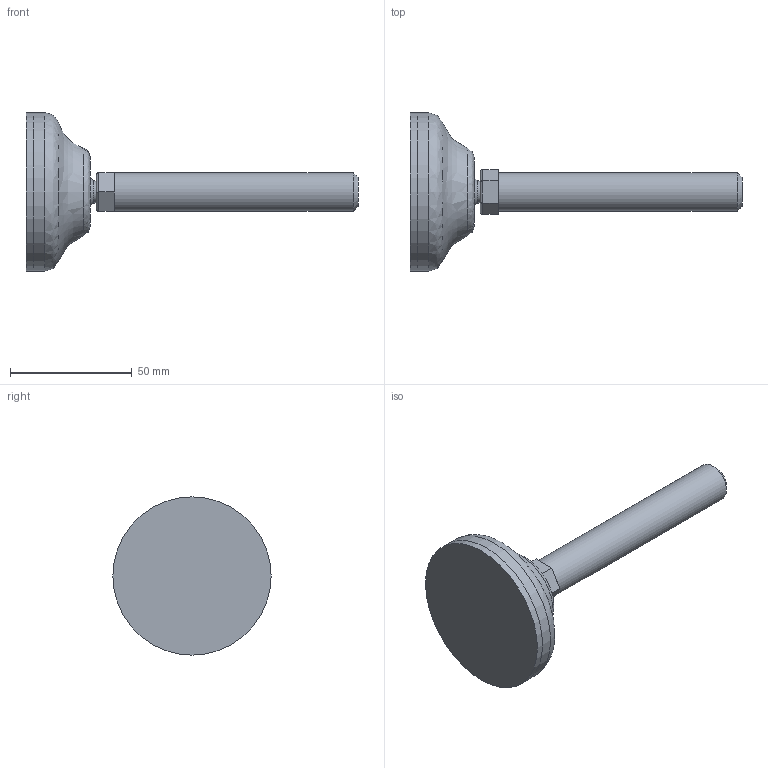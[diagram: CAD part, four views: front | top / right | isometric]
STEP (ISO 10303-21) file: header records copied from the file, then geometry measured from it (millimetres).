
FILE_DESCRIPTION(('STEP AP203'),'2;1');
FILE_NAME('10285.stp','2013-10-22T09:50:35',(''),(''),'2008.1.107','THINKDESIGN','');
FILE_SCHEMA(('CONFIG_CONTROL_DESIGN'));
Length unit declared in the file: millimetre
Bounding box: 136.32 x 65 x 65 mm (x, y, z)
Volume: 82494.6 mm3; surface area: 22729 mm2
Topology: 5 solids, 5 shells, 31 faces, 65 edges, 44 vertices
Faces by surface type: plane 16, cylinder 10, bspline 5
Full cylindrical faces by diameter (mm): 9.087 x1, 16 x1, 65 x2
Entity records: 1170 total; most frequent: CARTESIAN_POINT 411, DIRECTION 141, ORIENTED_EDGE 130, EDGE_CURVE 65, AXIS2_PLACEMENT_3D 56, VERTEX_POINT 44, EDGE_LOOP 31, FACE_OUTER_BOUND 31
